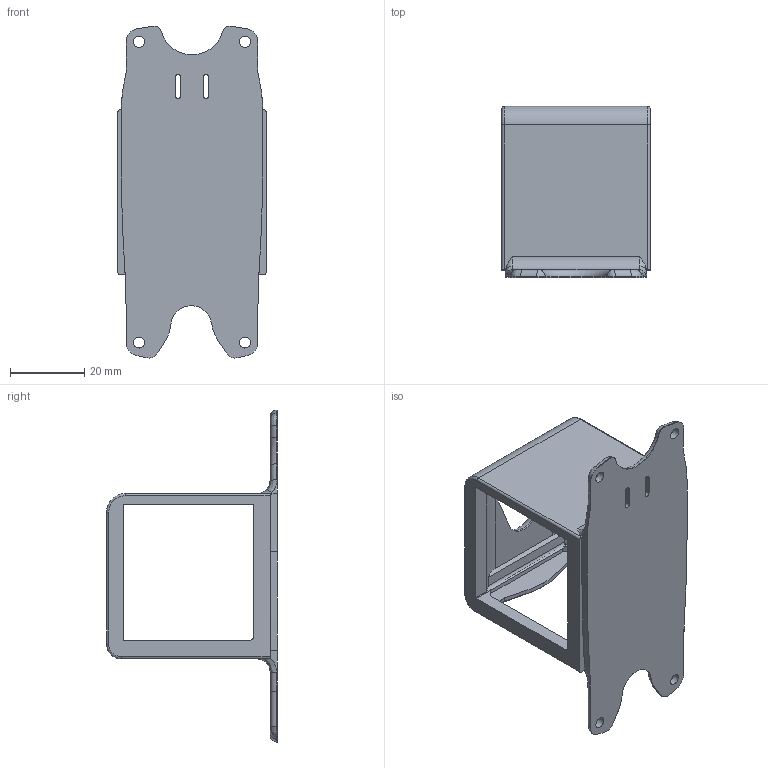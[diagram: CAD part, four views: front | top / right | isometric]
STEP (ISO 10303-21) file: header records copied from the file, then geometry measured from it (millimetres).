
FILE_DESCRIPTION(/* description */ (''),/* implementation_level */ '2;1');
FILE_NAME(/* name */ 'C:/Users/phil/Downloads/Komponente11.step',/* time_stamp */ '2019-05-11T18:05:15+02:00',/* author */ (''),/* organization */ (''),/* preprocessor_version */ 'ST-DEVELOPER v18',/* originating_system */ 'Autodesk Translation Framework v8.2.0.1029',/* authorisation */ '');
FILE_SCHEMA (('AUTOMOTIVE_DESIGN { 1 0 10303 214 3 1 1 }'));
Length unit declared in the file: millimetre
Products named in the file (1): Fusion-Komponente
Bounding box: 39.84 x 46 x 89.34 mm (x, y, z)
Volume: 23905.6 mm3; surface area: 15622.4 mm2
Topology: 1 solids, 1 shells, 226 faces, 585 edges, 356 vertices
Faces by surface type: plane 79, cylinder 75, bspline 39, torus 27, cone 6
Full cylindrical faces by diameter (mm): 2.95 x2, 3 x2
Entity records: 9093 total; most frequent: CARTESIAN_POINT 3644, ORIENTED_EDGE 1166, DIRECTION 1101, EDGE_CURVE 583, AXIS2_PLACEMENT_3D 400, VERTEX_POINT 356, LINE 301, VECTOR 301
